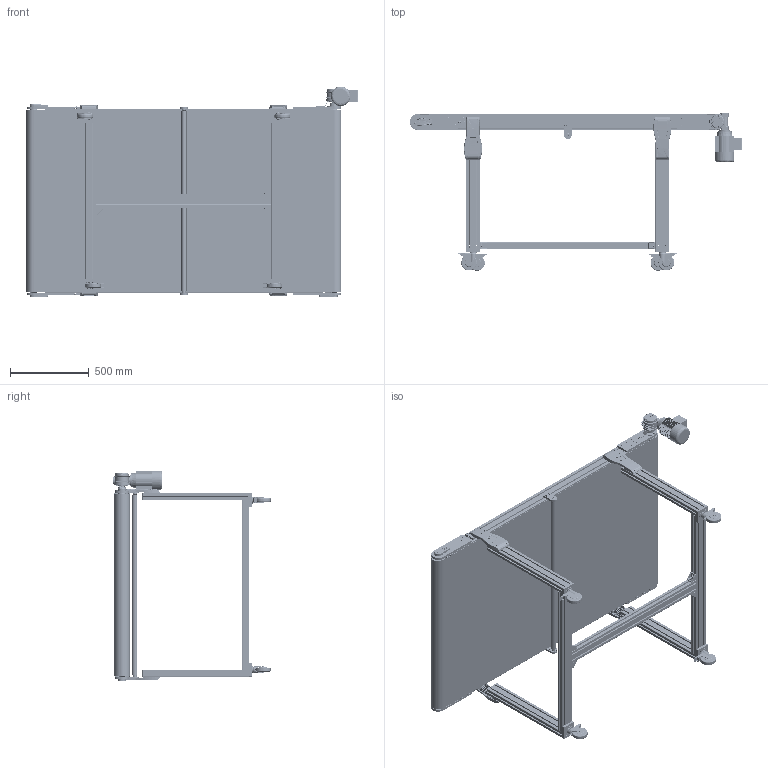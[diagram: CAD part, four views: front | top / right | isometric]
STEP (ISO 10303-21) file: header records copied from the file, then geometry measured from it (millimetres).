
FILE_DESCRIPTION (( 'STEP AP203' ), '1' );
FILE_NAME ('NASTRO_RETTILINEO_TAPPETO.step', '2026-05-06T06:28:51', ( 'Utente Windows' ), ( '' ), 'SwSTEP 2.0', 'SolidWorks 2024', '' );
FILE_SCHEMA (( 'CONFIG_CONTROL_DESIGN' ));
Length unit declared in the file: millimetre
Products named in the file (62): 084.808.012; 084.302.000 DADI ALUSIC 13x13-1_084.302.004; TRAVERSA_95_Default<A macchina>; ANGOLARE_43; 084.303.001; LAMIERA_STANDARD; 084.802.017_084.802.017; BLOCCO_BRACCIO_CH04P_V2_VF44P V2; 084.302.060; DADO ESAGONALE M30 AUTOBLOCCANTE UNI 7473_M30 UNI 7473; 084.305.003-1; 084.302.000 DADI ALUSIC 13x13-1_084.302.009; VITE_RONDELLA_M8X20; 2010.000.072_L_Default<A macchina>; VITI TCEI UNI 5931_M6x12 UNI 5931; 084.802.028; 084.404.004; VITI TSEI UNI 5933_M5x12 UNI 5933; PERNO_95_TRAINO_CINGHIE_44_DX_Default<A macchina>; 084.802.019_084.802.019; RULLO_REGGITAPPETO; 084.802.068; VITI TCEI UNI 5931_M4x25 UNI 5931; BLOCCO_TRAINO_95_STANDARD_44_DX_dx; 084.802.013-2; 084.808.003_084.808.003; GAMBE_D95_Default<A macchina>; RULLO_95_CINGHIE_Default<A macchina>; BLOCCO_RINVIO_95_STANDARD_CON TENDINASTRO E CARTER; NASTRO_RETTILINEO_TAPPETO; 084.802.067_Default<A macchina>; VITI TSEI UNI 5933_M4x12 UNI 5933; 084.802.060_Default<A macchina>; RUOTA_95; FLANGIA_GAMBA_95_CON GIUNTI; 084.802.062; VITE_DADO_M5X12; 084.803.003; PERNO_95_RINVIO_CINGHIE; 084.802.071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
Assembly tree (194 placements, depth 4):
  NASTRO_RETTILINEO_TAPPETO
    TAPPETO_STANDARD_CINGHIE
    TELAIO_95_CINGHIE_Default<A macchina>
    LAMIERA_STANDARD
    RULLO_95_CINGHIE_Default<A macchina>  x2
    PERNO_95_TRAINO_CINGHIE_44_DX_Default<A macchina>
    BLOCCO_TRAINO_95_STANDARD_44_DX_dx
      084.808.003_084.808.003
      084.302.060  x2
      084.802.034_084.802.034
      084.301.000 VITI ALUSIC_084.301.003  x6
      VITI TCEI UNI 5931_M4x25 UNI 5931  x2
      084.802.067_Default<A macchina>
      BLOCCO_BRACCIO_CH04P_V2_VF44P V2
        084.808.012
        084.802.062
        084.803.018
        VITI TCEI UNI 5931_M6x12 UNI 5931  x4
        VITI TE UNI 5739_M6x16 UNI 5739  x4
        084.802.060_Default<A macchina>
    BLOCCO_TRAINO_95_STANDARD_CON TENDINASTRO E CARTER
      084.808.002_084.808.002
      084.302.060  x2
      084.802.019_084.802.019
      084.301.000 VITI ALUSIC_084.301.003  x6
      VITI TCEI UNI 5931_M4x25 UNI 5931  x2
      084.802.071
      084.802.068
      VITI TSEI UNI 5933_M4x12 UNI 5933  x2
    GUIDA_CINGHIA_Z_95  x4
      449.014.106
      DADO ESAGONALE M30 AUTOBLOCCANTE UNI 7473_M30 UNI 7473
    PERNO_95_RINVIO_CINGHIE
    BLOCCO_RINVIO_95_STANDARD_CON TENDINASTRO E CARTER  x2
      084.808.002_084.808.002
      084.803.003
      084.302.060
      084.802.019_084.802.019
      VITI TSEI UNI 5933_M4x12 UNI 5933
      084.302.000 DADI ALUSIC 13x13-1_084.302.004
      084.301.000 VITI ALUSIC_084.301.003
      084.802.071
    GAMBE_D95_Default<A macchina>  x2
    FLANGIA_GAMBA_95_CON GIUNTI
      2010.000.072
        2010.000.072_L_Default<A macchina>
        2010.000.073
        2010.000.074
      084.302.000 DADI ALUSIC 13x13-1_084.302.004  x6
      RONDELLE UNI 6592_8.4x17 UNI 6592  x7
      084.301.000 VITI ALUSIC1_084.301.003  x7
    FLANGIA_GAMBA_95_CON GIUNTI  x3
      2010.000.072
        2010.000.072_L_Default<A macchina>
        2010.000.073
        2010.000.074
      084.302.000 DADI ALUSIC 13x13-1_084.302.004
      RONDELLE UNI 6592_8.4x17 UNI 6592
      084.301.000 VITI ALUSIC1_084.301.003
    RUOTA_95  x4
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Bounding box: 2104.1 x 996.5 x 1336.5 mm (x, y, z)
Volume: 45140753.4 mm3; surface area: 30403104.9 mm2
Topology: 382 solids, 394 shells, 17120 faces, 44451 edges, 28457 vertices
Faces by surface type: plane 8013, cylinder 4407, bspline 1862, cone 1617, torus 1085, sphere 136
Entity records: 255919 total; most frequent: CARTESIAN_POINT 87080, ORIENTED_EDGE 34692, DIRECTION 31291, EDGE_CURVE 17346, VERTEX_POINT 11142, AXIS2_PLACEMENT_3D 10718, VECTOR 9855, LINE 9855
